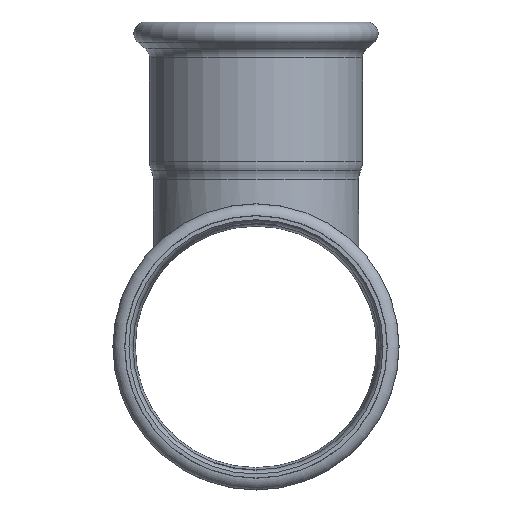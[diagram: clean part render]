
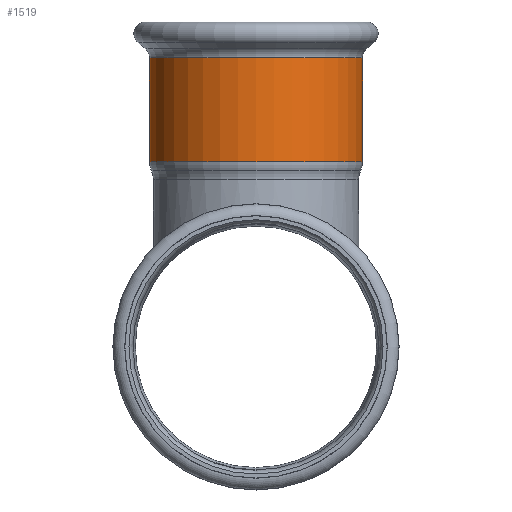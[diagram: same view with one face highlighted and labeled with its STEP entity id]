
A CAD part, left-side view. The second image highlights one B-rep face of the part: STEP entity #1519.
In plain terms, the highlighted cylindrical face has radius 72.5 mm (diameter 145 mm), a full revolution.
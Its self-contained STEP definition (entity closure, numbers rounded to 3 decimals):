
#55=CYLINDRICAL_SURFACE('',#1680,72.5);
#81=LINE('',#3320,#117);
#117=VECTOR('',#2069,72.5);
#180=FACE_OUTER_BOUND('',#257,.T.);
#257=EDGE_LOOP('',(#1116,#1117,#1118,#1119,#1120,#1121,#1122,#1123));
#372=CIRCLE('',#1677,72.5);
#373=CIRCLE('',#1678,72.5);
#374=CIRCLE('',#1679,72.5);
#375=CIRCLE('',#1681,72.5);
#376=CIRCLE('',#1682,72.5);
#377=CIRCLE('',#1683,72.5);
#577=VERTEX_POINT('',#3307);
#578=VERTEX_POINT('',#3309);
#579=VERTEX_POINT('',#3311);
#580=VERTEX_POINT('',#3315);
#581=VERTEX_POINT('',#3316);
#582=VERTEX_POINT('',#3318);
#786=EDGE_CURVE('',#578,#577,#372,.T.);
#787=EDGE_CURVE('',#579,#578,#373,.T.);
#788=EDGE_CURVE('',#577,#579,#374,.T.);
#789=EDGE_CURVE('',#580,#581,#375,.T.);
#790=EDGE_CURVE('',#582,#580,#376,.T.);
#791=EDGE_CURVE('',#582,#579,#81,.T.);
#792=EDGE_CURVE('',#581,#582,#377,.T.);
#1116=ORIENTED_EDGE('',*,*,#789,.F.);
#1117=ORIENTED_EDGE('',*,*,#790,.F.);
#1118=ORIENTED_EDGE('',*,*,#791,.T.);
#1119=ORIENTED_EDGE('',*,*,#787,.T.);
#1120=ORIENTED_EDGE('',*,*,#786,.T.);
#1121=ORIENTED_EDGE('',*,*,#788,.T.);
#1122=ORIENTED_EDGE('',*,*,#791,.F.);
#1123=ORIENTED_EDGE('',*,*,#792,.F.);
#1519=ADVANCED_FACE('',(#180),#55,.T.);
#1677=AXIS2_PLACEMENT_3D('',#3310,#2057,#2058);
#1678=AXIS2_PLACEMENT_3D('',#3312,#2059,#2060);
#1679=AXIS2_PLACEMENT_3D('',#3313,#2061,#2062);
#1680=AXIS2_PLACEMENT_3D('',#3314,#2063,#2064);
#1681=AXIS2_PLACEMENT_3D('',#3317,#2065,#2066);
#1682=AXIS2_PLACEMENT_3D('',#3319,#2067,#2068);
#1683=AXIS2_PLACEMENT_3D('',#3321,#2070,#2071);
#2057=DIRECTION('center_axis',(0.,0.,-1.));
#2058=DIRECTION('ref_axis',(-1.,0.,0.));
#2059=DIRECTION('center_axis',(0.,0.,-1.));
#2060=DIRECTION('ref_axis',(-1.,0.,0.));
#2061=DIRECTION('center_axis',(0.,0.,-1.));
#2062=DIRECTION('ref_axis',(-1.,0.,0.));
#2063=DIRECTION('center_axis',(0.,0.,-1.));
#2064=DIRECTION('ref_axis',(0.,-1.,0.));
#2065=DIRECTION('center_axis',(0.,0.,-1.));
#2066=DIRECTION('ref_axis',(-1.,0.,0.));
#2067=DIRECTION('center_axis',(0.,0.,-1.));
#2068=DIRECTION('ref_axis',(-1.,0.,0.));
#2069=DIRECTION('',(0.,0.,1.));
#2070=DIRECTION('center_axis',(0.,0.,-1.));
#2071=DIRECTION('ref_axis',(-1.,0.,0.));
#3307=CARTESIAN_POINT('',(-72.5,0.,196.753));
#3309=CARTESIAN_POINT('',(0.,-72.5,196.753));
#3310=CARTESIAN_POINT('Origin',(0.,0.,196.753));
#3311=CARTESIAN_POINT('',(0.,72.5,196.753));
#3312=CARTESIAN_POINT('Origin',(0.,0.,196.753));
#3313=CARTESIAN_POINT('Origin',(0.,0.,196.753));
#3314=CARTESIAN_POINT('Origin',(0.,0.,161.451));
#3315=CARTESIAN_POINT('',(0.,-72.5,126.15));
#3316=CARTESIAN_POINT('',(-72.5,0.,126.15));
#3317=CARTESIAN_POINT('Origin',(0.,0.,126.15));
#3318=CARTESIAN_POINT('',(0.,72.5,126.15));
#3319=CARTESIAN_POINT('Origin',(0.,0.,126.15));
#3320=CARTESIAN_POINT('',(0.,72.5,161.451));
#3321=CARTESIAN_POINT('Origin',(0.,0.,126.15));
